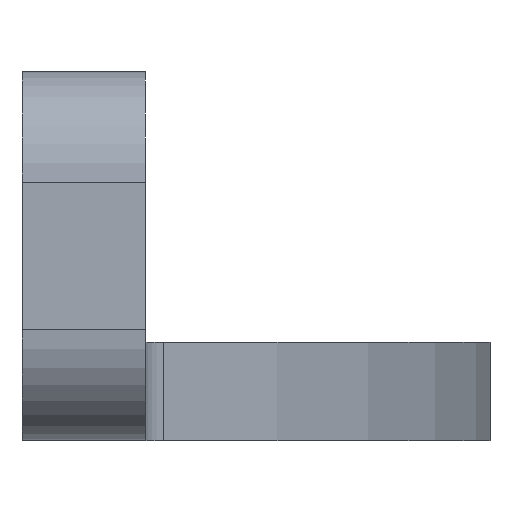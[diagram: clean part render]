
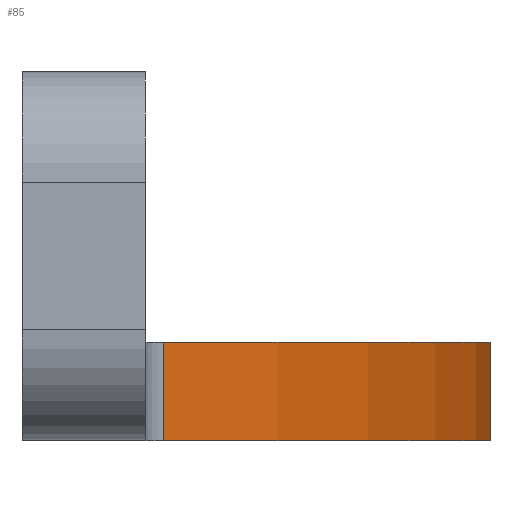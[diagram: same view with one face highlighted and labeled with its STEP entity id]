
A CAD part, left-side view. The second image highlights one B-rep face of the part: STEP entity #85.
In plain terms, the highlighted cylindrical face has radius 89.446 mm (diameter 178.893 mm), a partial arc.
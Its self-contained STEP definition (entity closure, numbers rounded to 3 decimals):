
#85 = ADVANCED_FACE( '', ( #126 ), #127, .T. );
#126 = FACE_OUTER_BOUND( '', #188, .T. );
#127 = CYLINDRICAL_SURFACE( '', #189, 89.446 );
#188 = EDGE_LOOP( '', ( #296, #297, #298, #299 ) );
#189 = AXIS2_PLACEMENT_3D( '', #300, #301, #302 );
#296 = ORIENTED_EDGE( '', *, *, #514, .T. );
#297 = ORIENTED_EDGE( '', *, *, #515, .F. );
#298 = ORIENTED_EDGE( '', *, *, #516, .T. );
#299 = ORIENTED_EDGE( '', *, *, #511, .T. );
#300 = CARTESIAN_POINT( '', ( 96., 51.446, -15. ) );
#301 = DIRECTION( '', ( 0., 0., -1. ) );
#302 = DIRECTION( '', ( -0.711, -0.704, 0. ) );
#511 = EDGE_CURVE( '', #613, #611, #614, .T. );
#514 = EDGE_CURVE( '', #611, #618, #619, .T. );
#515 = EDGE_CURVE( '', #620, #618, #621, .T. );
#516 = EDGE_CURVE( '', #620, #613, #622, .T. );
#611 = VERTEX_POINT( '', #759 );
#613 = VERTEX_POINT( '', #761 );
#614 = LINE( '', #762, #763 );
#618 = VERTEX_POINT( '', #768 );
#619 = CIRCLE( '', #769, 89.446 );
#620 = VERTEX_POINT( '', #770 );
#621 = LINE( '', #771, #772 );
#622 = CIRCLE( '', #773, 89.446 );
#759 = CARTESIAN_POINT( '', ( 159.566, -11.482, -7. ) );
#761 = CARTESIAN_POINT( '', ( 159.566, -11.482, -15. ) );
#762 = CARTESIAN_POINT( '', ( 159.566, -11.482, -15. ) );
#763 = VECTOR( '', #953, 1. );
#768 = CARTESIAN_POINT( '', ( 32.434, -11.482, -7. ) );
#769 = AXIS2_PLACEMENT_3D( '', #958, #959, #960 );
#770 = CARTESIAN_POINT( '', ( 32.434, -11.482, -15. ) );
#771 = CARTESIAN_POINT( '', ( 32.434, -11.482, -15. ) );
#772 = VECTOR( '', #961, 1. );
#773 = AXIS2_PLACEMENT_3D( '', #962, #963, #964 );
#953 = DIRECTION( '', ( 0., 0., 1. ) );
#958 = CARTESIAN_POINT( '', ( 96., 51.446, -7. ) );
#959 = DIRECTION( '', ( 0., 0., -1. ) );
#960 = DIRECTION( '', ( -0.711, -0.704, 0. ) );
#961 = DIRECTION( '', ( 0., 0., 1. ) );
#962 = CARTESIAN_POINT( '', ( 96., 51.446, -15. ) );
#963 = DIRECTION( '', ( 0., 0., 1. ) );
#964 = DIRECTION( '', ( -0.711, -0.704, 0. ) );
